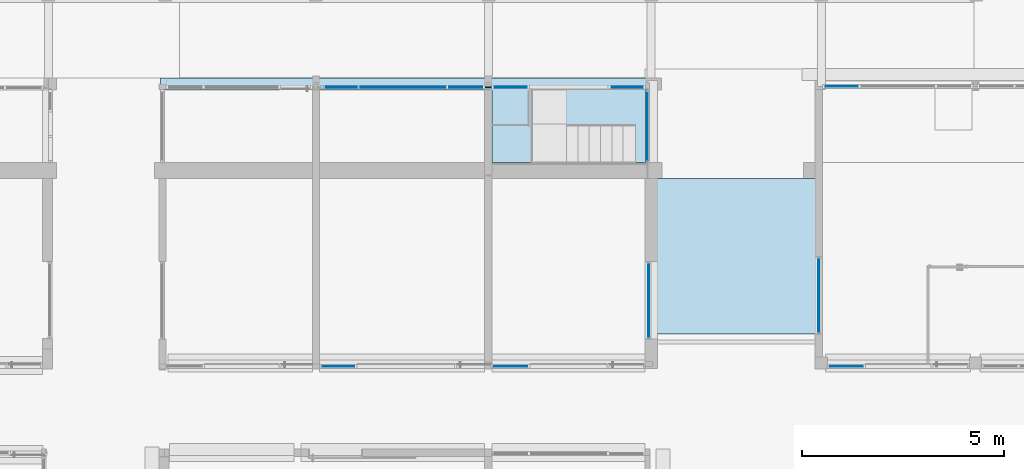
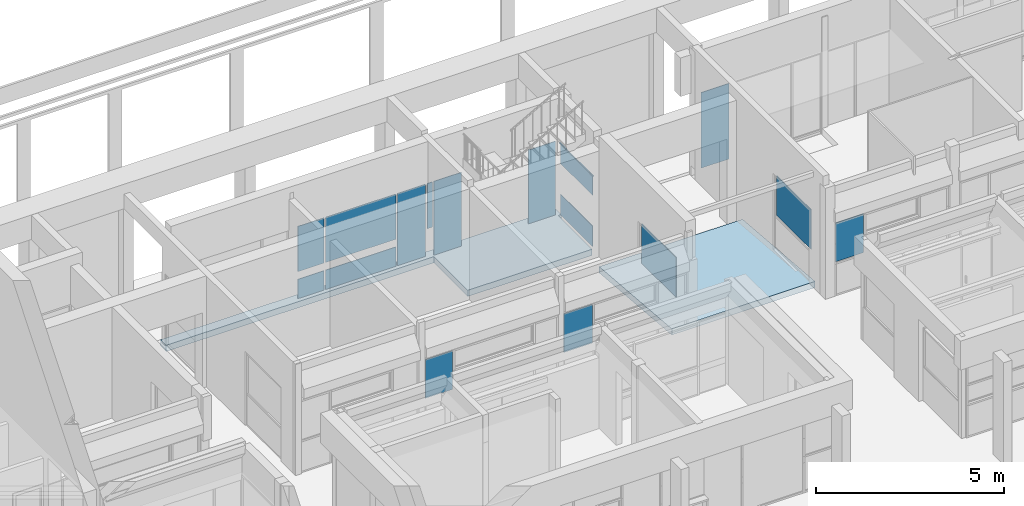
# One storey, part 37 of 117: 17 plates, 2 slabs, 8 elements without a shape of their own.
"""IFC4 building model written with IfcOpenShell, lengths in metres."""

from ifc_helpers import new_model, entity, si_unit, converted_unit, derived_unit, direction, frame, origin, place, context, subcontext, project, spatial, indexed_curve, outline, extrude, source, transform, mapped, material, type_object, type_shapes, element, aggregate, save


model = new_model("IFC4")

# Units and contexts
model_context = context("Model", 3, precision=1e-05, world=origin(), true_north=direction((6.123031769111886e-17, 1.0)))
body_context = subcontext(model_context, "Body", "Model", "MODEL_VIEW")
ifc_project = project(units=[si_unit("LENGTHUNIT", "METRE"), si_unit("AREAUNIT", "SQUARE_METRE"), si_unit("VOLUMEUNIT", "CUBIC_METRE"), converted_unit("PLANEANGLEUNIT", "DEGREE", entity("IfcRatioMeasure", 0.017453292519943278), si_unit("PLANEANGLEUNIT", "RADIAN"), dimensions=[0, 0, 0, 0, 0, 0, 0]), si_unit("MASSUNIT", "GRAM", prefix="KILO"), derived_unit("MASSDENSITYUNIT", [(si_unit("MASSUNIT", "GRAM", prefix="KILO"), 1), (si_unit("LENGTHUNIT", "METRE"), -3)]), derived_unit("MOMENTOFINERTIAUNIT", [(si_unit("LENGTHUNIT", "METRE"), 4)]), si_unit("TIMEUNIT", "SECOND"), si_unit("FREQUENCYUNIT", "HERTZ"), si_unit("THERMODYNAMICTEMPERATUREUNIT", "DEGREE_CELSIUS"), derived_unit("THERMALTRANSMITTANCEUNIT", [(si_unit("MASSUNIT", "GRAM", prefix="KILO"), 1), (si_unit("THERMODYNAMICTEMPERATUREUNIT", "KELVIN"), -1), (si_unit("TIMEUNIT", "SECOND"), -3)]), derived_unit("VOLUMETRICFLOWRATEUNIT", [(si_unit("LENGTHUNIT", "METRE"), 3), (si_unit("TIMEUNIT", "SECOND"), -1)]), derived_unit("MASSFLOWRATEUNIT", [(si_unit("MASSUNIT", "GRAM", prefix="KILO"), 1), (si_unit("TIMEUNIT", "SECOND"), -1)]), derived_unit("ROTATIONALFREQUENCYUNIT", [(si_unit("TIMEUNIT", "SECOND"), -1)]), si_unit("ELECTRICCURRENTUNIT", "AMPERE"), si_unit("ELECTRICVOLTAGEUNIT", "VOLT"), si_unit("POWERUNIT", "WATT"), si_unit("FORCEUNIT", "NEWTON", prefix="KILO"), si_unit("ILLUMINANCEUNIT", "LUX"), si_unit("LUMINOUSFLUXUNIT", "LUMEN"), si_unit("LUMINOUSINTENSITYUNIT", "CANDELA"), derived_unit("USERDEFINED", [(si_unit("MASSUNIT", "GRAM", prefix="KILO"), -1), (si_unit("LENGTHUNIT", "METRE"), -2), (si_unit("TIMEUNIT", "SECOND"), 3), (si_unit("LUMINOUSFLUXUNIT", "LUMEN"), 1)]), derived_unit("SOUNDPOWERUNIT", [(si_unit("MASSUNIT", "GRAM", prefix="KILO"), 1), (si_unit("LENGTHUNIT", "METRE"), 2), (si_unit("TIMEUNIT", "SECOND"), -3)]), derived_unit("SOUNDPRESSUREUNIT", [(si_unit("MASSUNIT", "GRAM", prefix="KILO"), 1), (si_unit("LENGTHUNIT", "METRE"), -1), (si_unit("TIMEUNIT", "SECOND"), -2)]), derived_unit("LINEARVELOCITYUNIT", [(si_unit("LENGTHUNIT", "METRE"), 1), (si_unit("TIMEUNIT", "SECOND"), -1)]), si_unit("PRESSUREUNIT", "PASCAL"), derived_unit("USERDEFINED", [(si_unit("LENGTHUNIT", "METRE"), -2), (si_unit("MASSUNIT", "GRAM", prefix="KILO"), 1), (si_unit("TIMEUNIT", "SECOND"), -2)]), derived_unit("LINEARFORCEUNIT", [(si_unit("MASSUNIT", "GRAM", prefix="KILO"), 1), (si_unit("LENGTHUNIT", "METRE"), 1), (si_unit("TIMEUNIT", "SECOND"), -2), (si_unit("LENGTHUNIT", "METRE"), -1)]), derived_unit("PLANARFORCEUNIT", [(si_unit("MASSUNIT", "GRAM", prefix="KILO"), 1), (si_unit("LENGTHUNIT", "METRE"), 1), (si_unit("TIMEUNIT", "SECOND"), -2), (si_unit("LENGTHUNIT", "METRE"), -2)])], contexts=[model_context])

# Site, building, storey
site_placement = place(None, origin())
site = spatial("IfcSite", under=ifc_project, at=site_placement, Name="Superficie", CompositionType="ELEMENT")
building_placement = place(site_placement, origin())
building = spatial("IfcBuilding", under=site, at=building_placement, CompositionType="ELEMENT")
storey_placement = place(building_placement, origin())
storey = spatial("IfcBuildingStorey", under=building, at=storey_placement, Name="Nivel 0", CompositionType="ELEMENT", Elevation=0.0)

# Curtain wall, plate
curtain_wall_type = type_object("IfcCurtainWallType", Name="Muro cortina:Muro cortina - simple", PredefinedType="NOTDEFINED")
curtain_wall_1_placement = place(storey_placement, origin())
curtain_wall_1 = element("IfcCurtainWall", 1, at=curtain_wall_1_placement, inside=storey, type_object=curtain_wall_type, Name="Muro cortina:Muro cortina - simple", ObjectType="Muro cortina:Muro cortina - simple", PredefinedType="NOTDEFINED")
ifc_material_1 = material(Name="Cristal", Category="Vidrio")
plate_type_1 = type_object("IfcPlateType", Name="Panel de sistema:Acristalado", PredefinedType="CURTAIN_PANEL", material=ifc_material_1)
shared_shape_1 = source(origin(), body_context, "Body", "SweptSolid", [
    extrude(outline(indexed_curve([(-0.6316666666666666, -0.4374999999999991), (0.008333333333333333, -0.4374999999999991), (0.6233333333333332, -0.4374999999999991), (0.6233333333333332, 0.4374999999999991), (0.008333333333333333, 0.4374999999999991), (-0.6316666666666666, 0.4374999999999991), (-0.6316666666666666, -0.4374999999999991)], self_intersect=False)), frame((0.0, -0.01, 0.6316666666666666), z_axis=(0.0, 1.0, 0.0), x_axis=(0.0, 0.0, 1.0)), (0.0, 0.0, 1.0), 0.02),
])
type_shapes(plate_type_1, [shared_shape_1])
plate_1_placement = place(curtain_wall_1_placement, frame((-6.7961665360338, 5.71582928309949, 1.045)))
plate_1 = element("IfcPlate", 2, at=plate_1_placement, type_object=plate_type_1, material=ifc_material_1, Name="Panel de sistema:Acristalado", ObjectType="Panel de sistema:Acristalado", PredefinedType="CURTAIN_PANEL", context=body_context, shape_type="MappedRepresentation", body=[
    mapped(shared_shape_1, transform((0.0, 0.0, 0.0), scale=1.0)),
])
aggregate(curtain_wall_1, [plate_1])

curtain_wall_2_placement = place(storey_placement, origin())
curtain_wall_2 = element("IfcCurtainWall", 3, at=curtain_wall_2_placement, inside=storey, type_object=curtain_wall_type, Name="Muro cortina:Muro cortina - simple", ObjectType="Muro cortina:Muro cortina - simple", PredefinedType="NOTDEFINED")
plate_type_2 = type_object("IfcPlateType", Name="Panel de sistema:Acristalado", PredefinedType="CURTAIN_PANEL", material=ifc_material_1)
shared_shape_2 = source(origin(), body_context, "Body", "SweptSolid", [
    extrude(outline(indexed_curve([(-0.01, -0.9136169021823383), (0.01, -0.9136169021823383), (0.01, 0.9136169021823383), (-0.01, 0.9136169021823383), (-0.01, -0.9136169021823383)], self_intersect=False)), frame((0.0, 0.0, 0.0), z_axis=(0.0, 0.0, 1.0), x_axis=(0.0, 1.0, 0.0)), (0.0, 0.0, 1.0), 1.2849999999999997),
])
type_shapes(plate_type_2, [shared_shape_2])
plate_2_placement = place(curtain_wall_2_placement, frame((-3.3632009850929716, 7.354446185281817, 1.0450000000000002), z_axis=(0.0, 0.0, 1.0), x_axis=(0.0, -1.0, 0.0)))
plate_2 = element("IfcPlate", 4, at=plate_2_placement, type_object=plate_type_2, material=ifc_material_1, Name="Panel de sistema:Acristalado", ObjectType="Panel de sistema:Acristalado", PredefinedType="CURTAIN_PANEL", context=body_context, shape_type="MappedRepresentation", body=[
    mapped(shared_shape_2, transform((0.0, 0.0, 0.0), scale=1.0)),
])
aggregate(curtain_wall_2, [plate_2])

curtain_wall_3_placement = place(storey_placement, origin())
curtain_wall_3 = element("IfcCurtainWall", 5, at=curtain_wall_3_placement, inside=storey, type_object=curtain_wall_type, Name="Muro cortina:Muro cortina - simple", ObjectType="Muro cortina:Muro cortina - simple", PredefinedType="NOTDEFINED")
plate_3_placement = place(curtain_wall_3_placement, frame((0.8515520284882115, 7.475356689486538, 1.0450000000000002), z_axis=(0.0, 0.0, 1.0), x_axis=(0.0, -1.0, 0.0)))
plate_3 = element("IfcPlate", 6, at=plate_3_placement, type_object=plate_type_2, material=ifc_material_1, Name="Panel de sistema:Acristalado", ObjectType="Panel de sistema:Acristalado", PredefinedType="CURTAIN_PANEL", context=body_context, shape_type="MappedRepresentation", body=[
    mapped(shared_shape_2, transform((0.0, 0.0, 0.0), scale=1.0)),
])
aggregate(curtain_wall_3, [plate_3])

curtain_wall_4_placement = place(storey_placement, origin())
curtain_wall_4 = element("IfcCurtainWall", 7, at=curtain_wall_4_placement, inside=storey, type_object=curtain_wall_type, Name="Muro cortina:Muro cortina - simple", ObjectType="Muro cortina:Muro cortina - simple", PredefinedType="NOTDEFINED")
plate_type_3 = type_object("IfcPlateType", Name="Panel de sistema:Acristalado", PredefinedType="CURTAIN_PANEL", material=ifc_material_1)
shared_shape_3 = source(origin(), body_context, "Body", "SweptSolid", [
    extrude(outline(indexed_curve([(-0.6316666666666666, -0.4149999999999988), (0.008333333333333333, -0.4149999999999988), (0.6233333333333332, -0.4149999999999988), (0.6233333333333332, 0.4149999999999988), (0.008333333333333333, 0.4149999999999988), (-0.6316666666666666, 0.4149999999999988), (-0.6316666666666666, -0.4149999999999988)], self_intersect=False)), frame((0.0, -0.009999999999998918, 0.6316666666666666), z_axis=(0.0, 1.0, 0.0), x_axis=(0.0, 0.0, 1.0)), (0.0, 0.0, 1.0), 0.02),
])
type_shapes(plate_type_3, [shared_shape_3])
plate_4_placement = place(curtain_wall_4_placement, frame((-11.063200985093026, 5.715829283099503, 1.0450000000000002)))
plate_4 = element("IfcPlate", 8, at=plate_4_placement, type_object=plate_type_3, material=ifc_material_1, Name="Panel de sistema:Acristalado", ObjectType="Panel de sistema:Acristalado", PredefinedType="CURTAIN_PANEL", context=body_context, shape_type="MappedRepresentation", body=[
    mapped(shared_shape_3, transform((0.0, 0.0, 0.0), scale=1.0)),
])
aggregate(curtain_wall_4, [plate_4])

curtain_wall_5_placement = place(storey_placement, origin())
curtain_wall_5 = element("IfcCurtainWall", 9, at=curtain_wall_5_placement, inside=storey, type_object=curtain_wall_type, Name="Muro cortina:Muro cortina - simple", ObjectType="Muro cortina:Muro cortina - simple", PredefinedType="NOTDEFINED")
plate_type_4 = type_object("IfcPlateType", Name="Panel de sistema:Acristalado", PredefinedType="CURTAIN_PANEL", material=ifc_material_1)
shared_shape_4 = source(origin(), body_context, "Body", "SweptSolid", [
    extrude(outline(indexed_curve([(-0.01, -0.42500000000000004), (0.01, -0.42500000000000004), (0.01, 0.42500000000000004), (-0.01, 0.42500000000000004), (-0.01, -0.42500000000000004)], self_intersect=False)), frame((0.0, 0.0, 0.0), z_axis=(0.0, 0.0, 1.0), x_axis=(0.0, 1.0, 0.0)), (0.0, 0.0, 1.0), 1.2599999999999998),
])
type_shapes(plate_type_4, [shared_shape_4])
plate_5_placement = place(curtain_wall_5_placement, frame((1.531552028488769, 5.716739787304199, 1.07)))
plate_5 = element("IfcPlate", 10, at=plate_5_placement, type_object=plate_type_4, material=ifc_material_1, Name="Panel de sistema:Acristalado", ObjectType="Panel de sistema:Acristalado", PredefinedType="CURTAIN_PANEL", context=body_context, shape_type="MappedRepresentation", body=[
    mapped(shared_shape_4, transform((0.0, 0.0, 0.0), scale=1.0)),
])
aggregate(curtain_wall_5, [plate_5])

# Curtain wall, plates
curtain_wall_6_placement = place(storey_placement, origin())
curtain_wall_6 = element("IfcCurtainWall", 11, at=curtain_wall_6_placement, inside=storey, type_object=curtain_wall_type, Name="Muro cortina:Muro cortina - simple", ObjectType="Muro cortina:Muro cortina - simple", PredefinedType="NOTDEFINED")
plate_type_5 = type_object("IfcPlateType", Name="Panel de sistema:Acristalado", PredefinedType="CURTAIN_PANEL", material=ifc_material_1)
shared_shape_5 = source(origin(), body_context, "Body", "SweptSolid", [
    extrude(outline(indexed_curve([(-0.01, -0.8525000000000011), (0.01, -0.8525000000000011), (0.01, 0.8525000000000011), (-0.01, 0.8525000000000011), (-0.01, -0.8525000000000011)], self_intersect=False)), frame((0.0, 0.0, 0.0), z_axis=(0.0, 0.0, 1.0), x_axis=(0.0, 1.0, 0.0)), (0.0, 0.0, 1.0), 0.6599999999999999),
])
type_shapes(plate_type_5, [shared_shape_5])
plate_6_placement = place(curtain_wall_6_placement, frame((-3.3932009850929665, 11.668329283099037, 0.04499999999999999), z_axis=(0.0, 0.0, 1.0), x_axis=(0.0, 1.0, 0.0)))
plate_6 = element("IfcPlate", 12, at=plate_6_placement, type_object=plate_type_5, material=ifc_material_1, Name="Panel de sistema:Acristalado", ObjectType="Panel de sistema:Acristalado", PredefinedType="CURTAIN_PANEL", context=body_context, shape_type="MappedRepresentation", body=[
    mapped(shared_shape_5, transform((0.0, 0.0, 0.0), scale=1.0)),
])
plate_type_6 = type_object("IfcPlateType", Name="Panel de sistema:Acristalado", PredefinedType="CURTAIN_PANEL", material=ifc_material_1)
shared_shape_6 = source(origin(), body_context, "Body", "SweptSolid", [
    extrude(outline(indexed_curve([(-0.01, -0.8525000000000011), (0.01, -0.8525000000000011), (0.01, 0.8525000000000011), (-0.01, 0.8525000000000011), (-0.01, -0.8525000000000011)], self_intersect=False)), frame((0.0, 0.0, 0.0), z_axis=(0.0, 0.0, 1.0), x_axis=(0.0, 1.0, 0.0)), (0.0, 0.0, 1.0), 0.625),
])
type_shapes(plate_type_6, [shared_shape_6])
plate_7_placement = place(curtain_wall_6_placement, frame((-3.3932009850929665, 11.668329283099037, 1.7049999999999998), z_axis=(0.0, 0.0, 1.0), x_axis=(0.0, 1.0, 0.0)))
plate_7 = element("IfcPlate", 13, at=plate_7_placement, type_object=plate_type_6, material=ifc_material_1, Name="Panel de sistema:Acristalado", ObjectType="Panel de sistema:Acristalado", PredefinedType="CURTAIN_PANEL", context=body_context, shape_type="MappedRepresentation", body=[
    mapped(shared_shape_6, transform((0.0, 0.0, 0.0), scale=1.0)),
])
plate_type_7 = type_object("IfcPlateType", Name="Panel de sistema:Acristalado", PredefinedType="CURTAIN_PANEL", material=ifc_material_1)
shared_shape_7 = source(origin(), body_context, "Body", "SweptSolid", [
    extrude(outline(indexed_curve([(-0.01, -0.8900000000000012), (0.01, -0.8900000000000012), (0.01, 0.8900000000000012), (-0.01, 0.8900000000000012), (-0.01, -0.8900000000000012)], self_intersect=False)), frame((0.0, 0.0, 0.0), z_axis=(0.0, 0.0, 1.0), x_axis=(0.0, 1.0, 0.0)), (0.0, 0.0, 1.0), 0.020000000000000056),
])
type_shapes(plate_type_7, [shared_shape_7])
plate_8_placement = place(curtain_wall_6_placement, frame((-3.3932009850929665, 11.680829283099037, 2.33), z_axis=(0.0, 0.0, 1.0), x_axis=(0.0, 1.0, 0.0)))
plate_8 = element("IfcPlate", 14, at=plate_8_placement, type_object=plate_type_7, material=ifc_material_1, Name="Panel de sistema:Acristalado", ObjectType="Panel de sistema:Acristalado", PredefinedType="CURTAIN_PANEL", context=body_context, shape_type="MappedRepresentation", body=[
    mapped(shared_shape_7, transform((0.0, 0.0, 0.0), scale=1.0)),
])
aggregate(curtain_wall_6, [plate_6, plate_7, plate_8])

# Curtain wall, plate
curtain_wall_7_placement = place(storey_placement, origin())
curtain_wall_7 = element("IfcCurtainWall", 15, at=curtain_wall_7_placement, inside=storey, type_object=curtain_wall_type, Name="Muro cortina:Muro cortina - simple", ObjectType="Muro cortina:Muro cortina - simple", PredefinedType="NOTDEFINED")
plate_type_8 = type_object("IfcPlateType", Name="Panel de sistema:Acristalado", PredefinedType="CURTAIN_PANEL", material=ifc_material_1)
shared_shape_8 = source(origin(), body_context, "Body", "SweptSolid", [
    extrude(outline(indexed_curve([(-0.01, -0.4250000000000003), (0.01, -0.4250000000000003), (0.01, 0.4250000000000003), (-0.01, 0.4250000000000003), (-0.01, -0.4250000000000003)], self_intersect=False)), frame((0.0, 0.0, 0.0), z_axis=(0.0, 0.0, 1.0), x_axis=(0.0, 1.0, 0.0)), (0.0, 0.0, 1.0), 2.45147709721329),
])
type_shapes(plate_type_8, [shared_shape_8])
plate_9_placement = place(curtain_wall_7_placement, frame((1.4115520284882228, 12.654548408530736, -0.06147709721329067), z_axis=(0.0, 0.0, 1.0), x_axis=(-1.0, 0.0, 0.0)))
plate_9 = element("IfcPlate", 16, at=plate_9_placement, type_object=plate_type_8, material=ifc_material_1, Name="Panel de sistema:Acristalado", ObjectType="Panel de sistema:Acristalado", PredefinedType="CURTAIN_PANEL", context=body_context, shape_type="MappedRepresentation", body=[
    mapped(shared_shape_8, transform((0.0, 0.0, 0.0), scale=1.0)),
])
aggregate(curtain_wall_7, [plate_9])

# Slab
ifc_material_2 = material(Name="Suelos por defecto", Category="Genérico")
slab_type_1 = type_object("IfcSlabType", Name="Suelo:Por defecto - 20 cm 2", PredefinedType="FLOOR", material=ifc_material_2)
slab_1_placement = place(storey_placement, origin())
element("IfcSlab", 17, at=slab_1_placement, inside=storey, type_object=slab_type_1, material=ifc_material_2, Name="Suelo:Por defecto - 20 cm 2", ObjectType="Suelo:Por defecto - 20 cm 2", PredefinedType="FLOOR", context=body_context, shape_type="SweptSolid", body=[
    extrude(outline(indexed_curve([(-1.9254012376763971, -0.09965708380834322), (1.9419500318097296, -0.09965708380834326), (1.925401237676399, 0.09965708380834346), (-1.9419500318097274, 0.09965708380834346), (-1.9254012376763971, -0.09965708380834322)], self_intersect=False)), frame((-3.45320098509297, 8.443784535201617, -0.26), z_axis=(1.0, 0.0, 0.0), x_axis=(0.0, 0.9965708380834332, -0.0827439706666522)), (0.0, 0.0, 1.0), 4.394753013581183),
])

# Curtain wall, plates
curtain_wall_8_placement = place(storey_placement, origin())
curtain_wall_8 = element("IfcCurtainWall", 18, at=curtain_wall_8_placement, inside=storey, type_object=curtain_wall_type, Name="Muro cortina:Muro cortina - simple", ObjectType="Muro cortina:Muro cortina - simple", PredefinedType="NOTDEFINED")
plate_type_9 = type_object("IfcPlateType", Name="Panel de sistema:Acristalado", PredefinedType="CURTAIN_PANEL", material=ifc_material_1)
shared_shape_9 = source(origin(), body_context, "Body", "SweptSolid", [
    extrude(outline(indexed_curve([(-0.01, -0.41250000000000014), (0.01, -0.41250000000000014), (0.01, 0.41250000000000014), (-0.01, 0.41250000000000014), (-0.01, -0.41250000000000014)], self_intersect=False)), frame((0.0, 0.0, 0.0), z_axis=(0.0, 0.0, 1.0), x_axis=(0.0, 1.0, 0.0)), (0.0, 0.0, 1.0), 2.3899999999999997),
])
type_shapes(plate_type_9, [shared_shape_9])
plate_10_placement = place(curtain_wall_8_placement, frame((-3.9057009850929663, 12.640829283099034, 0.0), z_axis=(0.0, 0.0, 1.0), x_axis=(-1.0, 0.0, 0.0)))
plate_10 = element("IfcPlate", 19, at=plate_10_placement, type_object=plate_type_9, material=ifc_material_1, Name="Panel de sistema:Acristalado", ObjectType="Panel de sistema:Acristalado", PredefinedType="CURTAIN_PANEL", context=body_context, shape_type="MappedRepresentation", body=[
    mapped(shared_shape_9, transform((0.0, 0.0, 0.0), scale=1.0)),
])
plate_type_10 = type_object("IfcPlateType", Name="Panel de sistema:Acristalado", PredefinedType="CURTAIN_PANEL", material=ifc_material_1)
shared_shape_10 = source(origin(), body_context, "Body", "SweptSolid", [
    extrude(outline(indexed_curve([(-0.01, -0.4250000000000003), (0.01, -0.4250000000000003), (0.01, 0.4250000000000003), (-0.01, 0.4250000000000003), (-0.01, -0.4250000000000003)], self_intersect=False)), frame((0.0, 0.0, 0.0), z_axis=(0.0, 0.0, 1.0), x_axis=(0.0, 1.0, 0.0)), (0.0, 0.0, 1.0), 2.3899999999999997),
])
type_shapes(plate_type_10, [shared_shape_10])
plate_11_placement = place(curtain_wall_8_placement, frame((-6.792388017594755, 12.640829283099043, 0.0), z_axis=(0.0, 0.0, 1.0), x_axis=(-1.0, 0.0, 0.0)))
plate_11 = element("IfcPlate", 20, at=plate_11_placement, type_object=plate_type_10, material=ifc_material_1, Name="Panel de sistema:Acristalado", ObjectType="Panel de sistema:Acristalado", PredefinedType="CURTAIN_PANEL", context=body_context, shape_type="MappedRepresentation", body=[
    mapped(shared_shape_10, transform((0.0, 0.0, 0.0), scale=1.0)),
])
plate_type_11 = type_object("IfcPlateType", Name="Panel de sistema:Acristalado", PredefinedType="CURTAIN_PANEL", material=ifc_material_1)
shared_shape_11 = source(origin(), body_context, "Body", "SweptSolid", [
    extrude(outline(indexed_curve([(-0.9599999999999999, -0.4325000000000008), (-0.30999999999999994, -0.4325000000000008), (-0.10999999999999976, -0.4325000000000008), (1.38, -0.4325000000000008), (1.38, 0.4325000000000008), (-0.1099999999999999, 0.4325000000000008), (-0.30999999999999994, 0.4325000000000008), (-0.9599999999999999, 0.4325000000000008), (-0.9599999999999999, -0.4325000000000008)], self_intersect=False)), frame((0.0, -0.01, 0.9599999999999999), z_axis=(0.0, 1.0, 0.0), x_axis=(0.0, 0.0, 1.0)), (0.0, 0.0, 1.0), 0.02),
])
type_shapes(plate_type_11, [shared_shape_11])
plate_12_placement = place(curtain_wall_8_placement, frame((-7.904888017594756, 12.640829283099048, 0.05), z_axis=(0.0, 0.0, 1.0), x_axis=(-1.0, 0.0, 0.0)))
plate_12 = element("IfcPlate", 21, at=plate_12_placement, type_object=plate_type_11, material=ifc_material_1, Name="Panel de sistema:Acristalado", ObjectType="Panel de sistema:Acristalado", PredefinedType="CURTAIN_PANEL", context=body_context, shape_type="MappedRepresentation", body=[
    mapped(shared_shape_11, transform((0.0, 0.0, 0.0), scale=1.0)),
])
plate_type_12 = type_object("IfcPlateType", Name="Panel de sistema:Acristalado", PredefinedType="CURTAIN_PANEL", material=ifc_material_1)
shared_shape_12 = source(origin(), body_context, "Body", "SweptSolid", [
    extrude(outline(indexed_curve([(-0.01, -0.07750000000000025), (0.01, -0.07750000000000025), (0.01, 0.07750000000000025), (-0.01, 0.07750000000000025), (-0.01, -0.07750000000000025)], self_intersect=False)), frame((0.0, 0.0, 0.0), z_axis=(0.0, 0.0, 1.0), x_axis=(0.0, 1.0, 0.0)), (0.0, 0.0, 1.0), 1.4649999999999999),
])
type_shapes(plate_type_12, [shared_shape_12])
plate_13_placement = place(curtain_wall_8_placement, frame((-7.344888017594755, 12.640829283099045, 0.9249999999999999), z_axis=(0.0, 0.0, 1.0), x_axis=(-1.0, 0.0, 0.0)))
plate_13 = element("IfcPlate", 22, at=plate_13_placement, type_object=plate_type_12, material=ifc_material_1, Name="Panel de sistema:Acristalado", ObjectType="Panel de sistema:Acristalado", PredefinedType="CURTAIN_PANEL", context=body_context, shape_type="MappedRepresentation", body=[
    mapped(shared_shape_12, transform((0.0, 0.0, 0.0), scale=1.0)),
])
plate_type_13 = type_object("IfcPlateType", Name="Panel de sistema:Acristalado", PredefinedType="CURTAIN_PANEL", material=ifc_material_1)
shared_shape_13 = source(origin(), body_context, "Body", "SweptSolid", [
    extrude(outline(indexed_curve([(-0.01, -1.0749999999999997), (0.01, -1.0749999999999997), (0.01, 1.0749999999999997), (-0.01, 1.0749999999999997), (-0.01, -1.0749999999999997)], self_intersect=False)), frame((0.0, 0.0, 0.0), z_axis=(0.0, 0.0, 1.0), x_axis=(0.0, 1.0, 0.0)), (0.0, 0.0, 1.0), 0.625),
])
type_shapes(plate_type_13, [shared_shape_13])
plate_14_placement = place(curtain_wall_8_placement, frame((-9.462388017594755, 12.640829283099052, 0.05), z_axis=(0.0, 0.0, 1.0), x_axis=(-1.0, 0.0, 0.0)))
plate_14 = element("IfcPlate", 23, at=plate_14_placement, type_object=plate_type_13, material=ifc_material_1, Name="Panel de sistema:Acristalado", ObjectType="Panel de sistema:Acristalado", PredefinedType="CURTAIN_PANEL", context=body_context, shape_type="MappedRepresentation", body=[
    mapped(shared_shape_13, transform((0.0, 0.0, 0.0), scale=1.0)),
])
plate_type_14 = type_object("IfcPlateType", Name="Panel de sistema:Acristalado", PredefinedType="CURTAIN_PANEL", material=ifc_material_1)
shared_shape_14 = source(origin(), body_context, "Body", "SweptSolid", [
    extrude(outline(indexed_curve([(-0.01, -1.0749999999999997), (0.01, -1.0749999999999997), (0.01, 1.0749999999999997), (-0.01, 1.0749999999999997), (-0.01, -1.0749999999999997)], self_intersect=False)), frame((0.0, 0.0, 0.0), z_axis=(0.0, 0.0, 1.0), x_axis=(0.0, 1.0, 0.0)), (0.0, 0.0, 1.0), 1.4649999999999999),
])
type_shapes(plate_type_14, [shared_shape_14])
plate_15_placement = place(curtain_wall_8_placement, frame((-9.462388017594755, 12.640829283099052, 0.9249999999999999), z_axis=(0.0, 0.0, 1.0), x_axis=(-1.0, 0.0, 0.0)))
plate_15 = element("IfcPlate", 24, at=plate_15_placement, type_object=plate_type_14, material=ifc_material_1, Name="Panel de sistema:Acristalado", ObjectType="Panel de sistema:Acristalado", PredefinedType="CURTAIN_PANEL", context=body_context, shape_type="MappedRepresentation", body=[
    mapped(shared_shape_14, transform((0.0, 0.0, 0.0), scale=1.0)),
])
plate_type_15 = type_object("IfcPlateType", Name="Panel de sistema:Acristalado", PredefinedType="CURTAIN_PANEL", material=ifc_material_1)
shared_shape_15 = source(origin(), body_context, "Body", "SweptSolid", [
    extrude(outline(indexed_curve([(-0.01, -0.40249999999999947), (0.01, -0.40249999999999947), (0.01, 0.40249999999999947), (-0.01, 0.40249999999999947), (-0.01, -0.40249999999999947)], self_intersect=False)), frame((0.0, 0.0, 0.0), z_axis=(0.0, 0.0, 1.0), x_axis=(0.0, 1.0, 0.0)), (0.0, 0.0, 1.0), 0.625),
])
type_shapes(plate_type_15, [shared_shape_15])
plate_16_placement = place(curtain_wall_8_placement, frame((-10.989888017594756, 12.640829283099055, 0.05), z_axis=(0.0, 0.0, 1.0), x_axis=(-1.0, 0.0, 0.0)))
plate_16 = element("IfcPlate", 25, at=plate_16_placement, type_object=plate_type_15, material=ifc_material_1, Name="Panel de sistema:Acristalado", ObjectType="Panel de sistema:Acristalado", PredefinedType="CURTAIN_PANEL", context=body_context, shape_type="MappedRepresentation", body=[
    mapped(shared_shape_15, transform((0.0, 0.0, 0.0), scale=1.0)),
])
plate_type_16 = type_object("IfcPlateType", Name="Panel de sistema:Acristalado", PredefinedType="CURTAIN_PANEL", material=ifc_material_1)
shared_shape_16 = source(origin(), body_context, "Body", "SweptSolid", [
    extrude(outline(indexed_curve([(-0.01, -0.40249999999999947), (0.01, -0.40249999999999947), (0.01, 0.40249999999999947), (-0.01, 0.40249999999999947), (-0.01, -0.40249999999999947)], self_intersect=False)), frame((0.0, 0.0, 0.0), z_axis=(0.0, 0.0, 1.0), x_axis=(0.0, 1.0, 0.0)), (0.0, 0.0, 1.0), 1.4649999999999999),
])
type_shapes(plate_type_16, [shared_shape_16])
plate_17_placement = place(curtain_wall_8_placement, frame((-10.989888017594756, 12.640829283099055, 0.9249999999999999), z_axis=(0.0, 0.0, 1.0), x_axis=(-1.0, 0.0, 0.0)))
plate_17 = element("IfcPlate", 26, at=plate_17_placement, type_object=plate_type_16, material=ifc_material_1, Name="Panel de sistema:Acristalado", ObjectType="Panel de sistema:Acristalado", PredefinedType="CURTAIN_PANEL", context=body_context, shape_type="MappedRepresentation", body=[
    mapped(shared_shape_16, transform((0.0, 0.0, 0.0), scale=1.0)),
])
aggregate(curtain_wall_8, [plate_10, plate_11, plate_12, plate_13, plate_14, plate_15, plate_16, plate_17])

# Slab
slab_type_2 = type_object("IfcSlabType", Name="Suelo:Por defecto - 20 cm 2", PredefinedType="FLOOR", material=ifc_material_2)
slab_2_placement = place(storey_placement, origin())
element("IfcSlab", 27, at=slab_2_placement, inside=storey, type_object=slab_type_2, material=ifc_material_2, Name="Suelo:Por defecto - 20 cm 2", ObjectType="Suelo:Por defecto - 20 cm 2", PredefinedType="FLOOR", context=body_context, shape_type="SweptSolid", body=[
    extrude(outline(indexed_curve([(0.3750000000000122, -8.08750000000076), (0.6749999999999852, -8.08750000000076), (0.6749999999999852, 4.032500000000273), (0.3750000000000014, 4.032500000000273), (0.3750000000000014, 3.9325000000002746), (-1.4249999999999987, 3.9325000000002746), (-1.4249999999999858, 0.12250000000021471), (0.3750000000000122, 0.12250000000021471), (0.3750000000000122, -8.08750000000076)], self_intersect=False)), frame((-7.37570098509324, 12.19582928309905, 0.0), z_axis=(0.0, 0.0, -1.0), x_axis=(0.0, 1.0, 0.0)), (0.0, 0.0, 1.0), 0.2),
])

save(model, "model.ifc")
